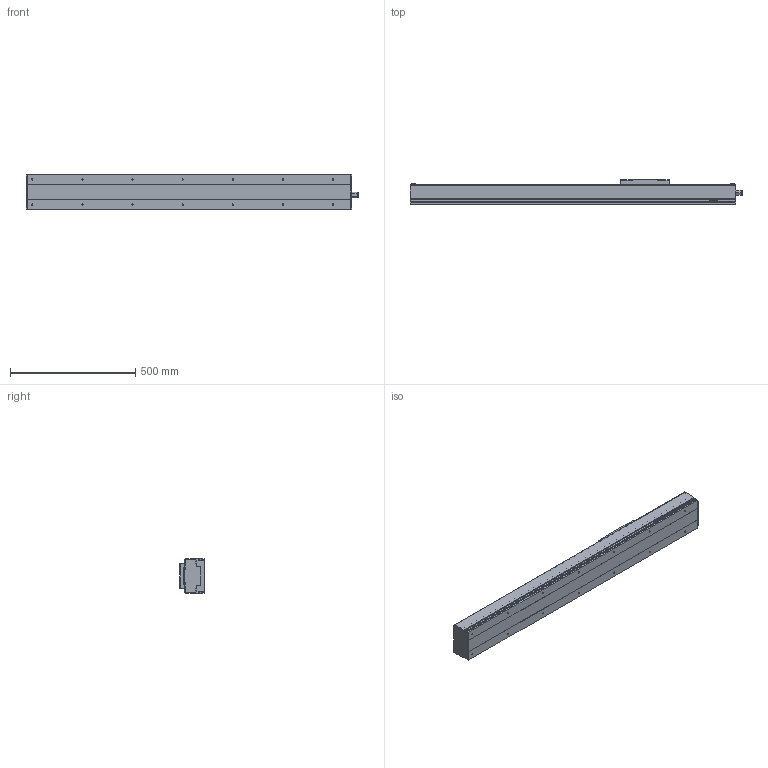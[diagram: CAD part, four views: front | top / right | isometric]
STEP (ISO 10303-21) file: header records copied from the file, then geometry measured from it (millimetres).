
FILE_DESCRIPTION(/* description */ (''),/* implementation_level */ '2;1');
FILE_NAME(/* name */ 'D:\混合母檔20191031\混和母檔\混和母檔\bin\Debug\Download\3D\KS140-10C-800AFI\KS140-10C-800AFI.stp',/* time_stamp */ '2019-11-04T15:34:02+08:00',/* author */ ('user'),/* organization */ (''),/* preprocessor_version */ 'ST-DEVELOPER v16.13',/* originating_system */ 'Autodesk Inventor 2018',/* authorisation */ '');
FILE_SCHEMA (('AUTOMOTIVE_DESIGN { 1 0 10303 214 3 1 1 }'));
Length unit declared in the file: millimetre
Products named in the file (3): KS140-10C-800AFI; KS140-FI-BP; KS140-SL
Assembly tree (2 placements, depth 2):
  KS140-10C-800AFI
    KS140-FI-BP
    KS140-SL
Bounding box: 1324.5 x 101 x 136 mm (x, y, z)
Volume: 5025814.1 mm3; surface area: 1301167.6 mm2
Topology: 4 solids, 8 shells, 687 faces, 1885 edges, 1237 vertices
Faces by surface type: plane 373, bspline 136, cylinder 82, cone 76, torus 16, sphere 4
Full cylindrical faces by diameter (mm): 3.571 x8, 4 x4, 4.134 x4, 4.3 x4, 4.917 x18, 6 x2, 8 x3, 8.4 x4, 12 x2, 13.1 x1, 15 x1, 18.75 x2, 46 x1, 50 x1
Entity records: 22137 total; most frequent: CARTESIAN_POINT 5929, ORIENTED_EDGE 3468, DIRECTION 2835, EDGE_CURVE 1733, VERTEX_POINT 1188, LINE 1143, VECTOR 1143, AXIS2_PLACEMENT_3D 846
